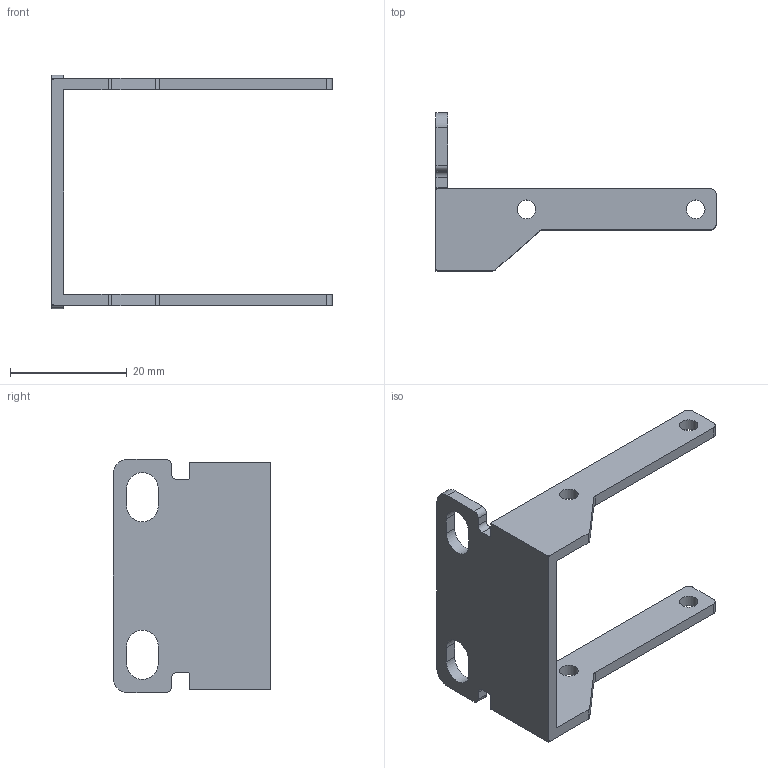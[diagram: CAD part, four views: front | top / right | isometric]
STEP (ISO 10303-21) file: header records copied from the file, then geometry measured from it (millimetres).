
FILE_DESCRIPTION( ( 'STEP AP214' ), '1' );
FILE_NAME( 'C:/Users/EMC02301/Desktop/EAC/EAC240.stp', '2026-08-31T10:11:36', ( 'License CC BY-ND 4.0' ), ( 'CADENAS' ), ' ', 'PARTsolutions', ' ' );
FILE_SCHEMA( ( 'AUTOMOTIVE_DESIGN { 1 0 10303 214 1 1 1 1 }' ) );
Length unit declared in the file: millimetre
Products named in the file (1): _EAC240
Bounding box: 48 x 27 x 40 mm (x, y, z)
Volume: 3486.2 mm3; surface area: 4289.2 mm2
Topology: 1 solids, 1 shells, 60 faces, 170 edges, 112 vertices
Faces by surface type: cylinder 32, plane 28
Full cylindrical faces by diameter (mm): 3.2 x4
Entity records: 2462 total; most frequent: DIRECTION 348, CARTESIAN_POINT 339, ORIENTED_EDGE 332, EDGE_CURVE 166, AXIS2_PLACEMENT_3D 121, VERTEX_POINT 112, LINE 106, VECTOR 106
